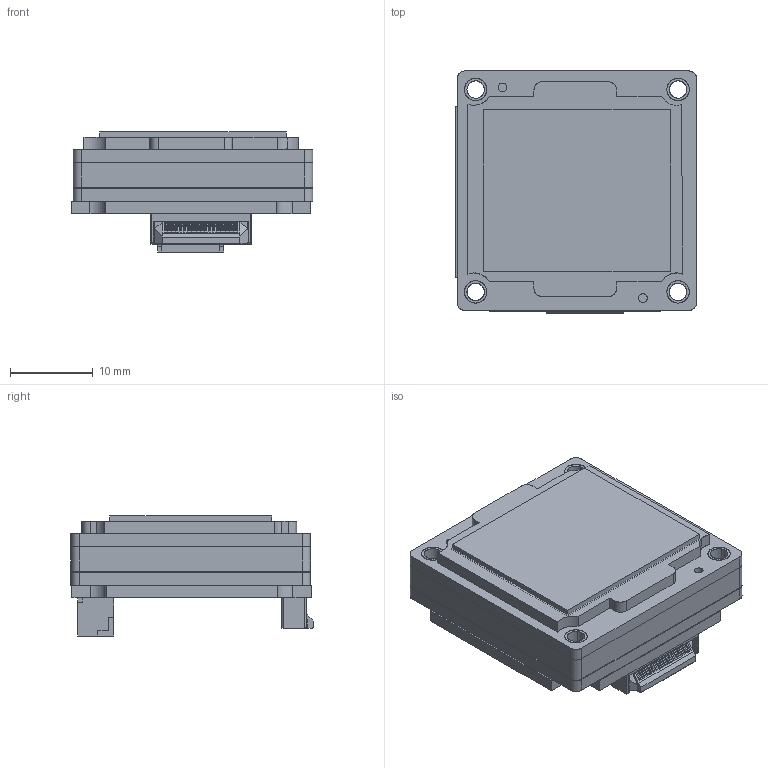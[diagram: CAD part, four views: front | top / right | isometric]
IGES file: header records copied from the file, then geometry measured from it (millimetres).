
Start section: SolidWorks IGES file using analytic representation for surfaces
Global section: file name: F:\mechanical\Documentation\BFS-BD\Models\BFS-U3-122S6M(C)-BD2.IGS; native system: SolidWorks 2018; preprocessor: SolidWorks 2018; author: DChou; date: 201123.111000; units: millimetre
Bounding box: 29.21 x 29.3 x 14.52 mm (x, y, z)
Surface area: 12358.3 mm2 (no closed solid volume)
Topology: 0 solids, 0 shells, 1108 faces, 8526 edges, 8525 vertices
Faces by surface type: bspline 882, revolution 226
